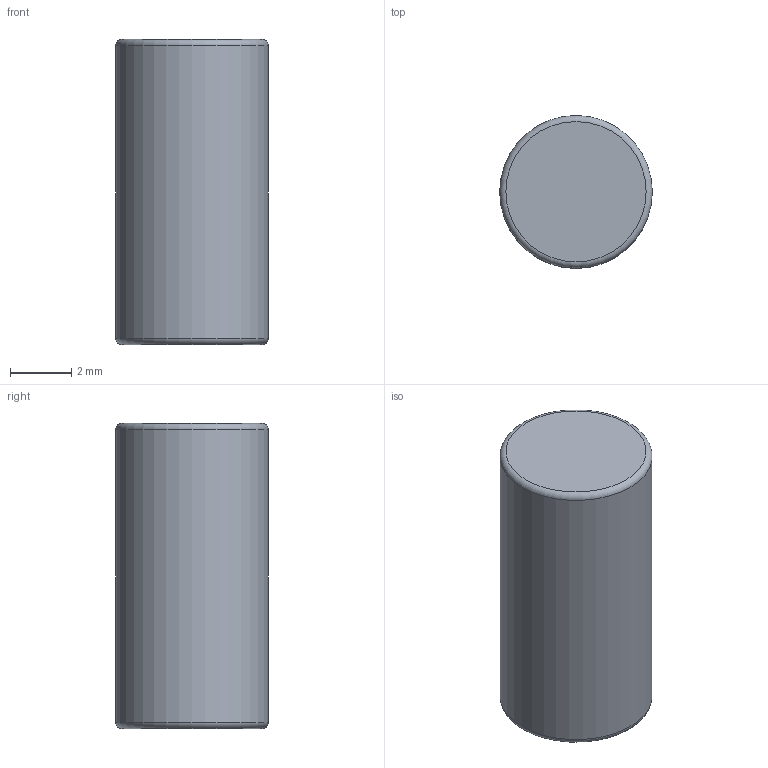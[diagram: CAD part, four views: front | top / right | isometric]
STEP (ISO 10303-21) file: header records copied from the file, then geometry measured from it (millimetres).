
FILE_DESCRIPTION(/* description */ (''),/* implementation_level */ '2;1');
FILE_NAME(/* name */ 'C:\Users\CAD2\Desktop\CALIBRI ZIP\18.05.10.stp',/* time_stamp */ '2015-05-19T08:55:57+02:00',/* author */ ('CAD2'),/* organization */ (''),/* preprocessor_version */ 'ST-DEVELOPER v15.2',/* originating_system */ 'Autodesk Inventor 2014',/* authorisation */ '0 mm^3');
FILE_SCHEMA (('CONFIG_CONTROL_DESIGN'));
Length unit declared in the file: millimetre
Products named in the file (1): 18.05.10
Bounding box: 5 x 5 x 10 mm (x, y, z)
Volume: 196.1 mm3; surface area: 193.6 mm2
Topology: 1 solids, 1 shells, 5 faces, 7 edges, 4 vertices
Faces by surface type: torus 2, plane 2, cylinder 1
Full cylindrical faces by diameter (mm): 5 x1
Entity records: 118 total; most frequent: DIRECTION 20, CARTESIAN_POINT 14, AXIS2_PLACEMENT_3D 10, EDGE_LOOP 8, ORIENTED_EDGE 8, FACE_OUTER_BOUND 5, ADVANCED_FACE 5, CIRCLE 4
